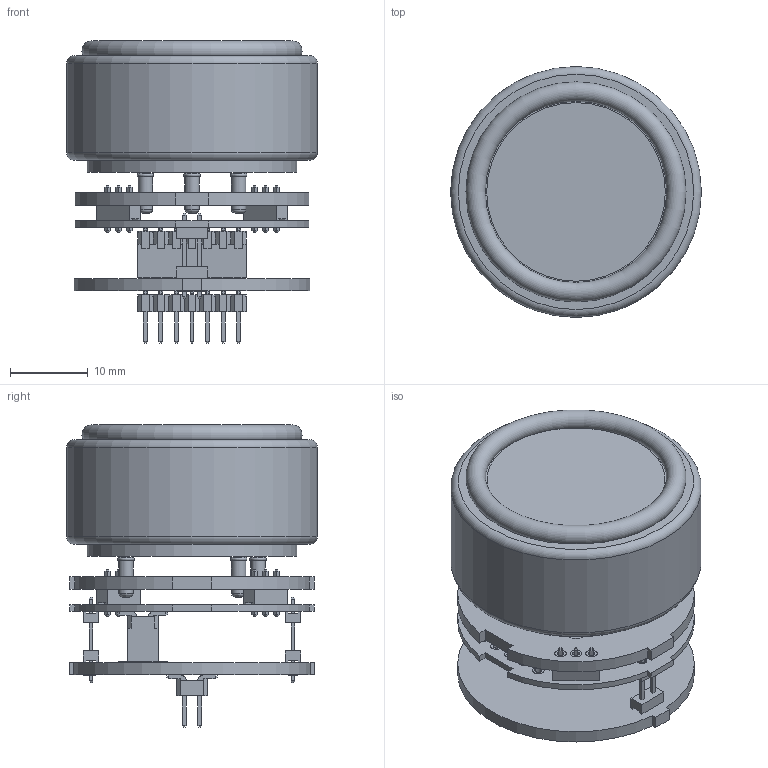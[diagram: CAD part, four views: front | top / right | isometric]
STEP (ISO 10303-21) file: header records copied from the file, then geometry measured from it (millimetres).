
FILE_DESCRIPTION(('STEP AP203'),'1');
FILE_NAME('ME4387 assieme cyber 4-20 EC 7 3D.stp','2022-03-09T07:36:41',(' '),(' '),'Spatial InterOp 3D',' ',' ');
FILE_SCHEMA(('CONFIG_CONTROL_DESIGN'));
Length unit declared in the file: millimetre
Products named in the file (12): Parte 17; ME4387 assieme cyber 4-20 EC 7 3D
Assembly tree (11 placements, depth 3):
  ME4387 assieme cyber 4-20 EC 7 3D
    Parte 17
      Parte 17
      Parte 17
      Parte 17
      Parte 17
      Parte 17
      Parte 17
      Parte 17
      Parte 17
      Parte 17
      Parte 17
Bounding box: 32.3 x 32.3 x 38.89 mm (x, y, z)
Volume: 15786 mm3; surface area: 9527.8 mm2
Topology: 10 solids, 20 shells, 1465 faces, 3746 edges, 2347 vertices
Faces by surface type: plane 1198, cylinder 252, torus 7, bspline 4, cone 4
Full cylindrical faces by diameter (mm): 0.8 x12, 0.82 x10, 0.85 x11, 0.89 x32, 1 x4, 1.25 x22, 1.5 x26, 1.85 x4, 1.96 x3, 2.4 x2, 3.1 x6, 3.8 x4, 23 x1, 27 x1, 32.3 x1
Entity records: 43338 total; most frequent: CARTESIAN_POINT 7398, DIRECTION 7088, ORIENTED_EDGE 7056, EDGE_CURVE 3528, LINE 2916, VECTOR 2916, VERTEX_POINT 2284, AXIS2_PLACEMENT_3D 2086
